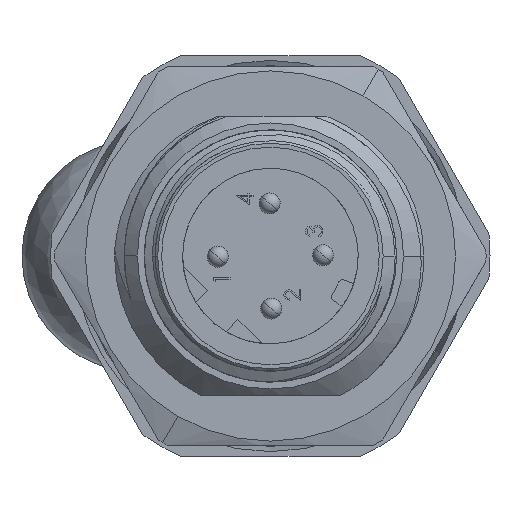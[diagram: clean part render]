
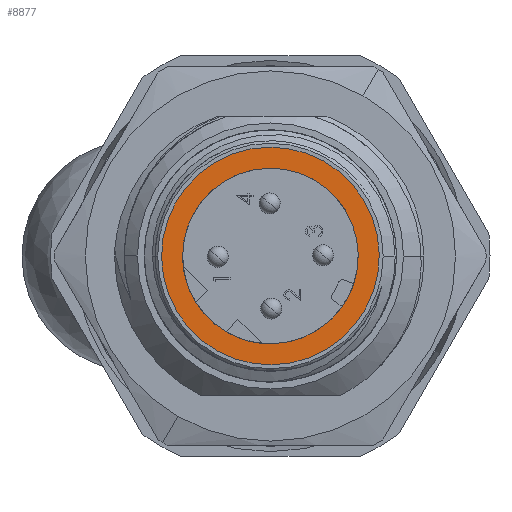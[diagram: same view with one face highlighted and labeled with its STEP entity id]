
A CAD part, left-side view. The second image highlights one B-rep face of the part: STEP entity #8877.
In plain terms, the highlighted planar face has unit normal (-1, 0, 0).
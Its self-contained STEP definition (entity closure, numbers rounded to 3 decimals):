
#456 = FACE_BOUND ( 'NONE', #14342, .T. ) ;
#1182 = DIRECTION ( 'NONE',  ( 0., 0.015, 1. ) ) ;
#2595 = ORIENTED_EDGE ( 'NONE', *, *, #27858, .T. ) ;
#3420 = ORIENTED_EDGE ( 'NONE', *, *, #15509, .F. ) ;
#4068 = VERTEX_POINT ( 'NONE', #16611 ) ;
#4629 = EDGE_CURVE ( 'NONE', #13764, #25515, #9466, .T. ) ;
#5066 = DIRECTION ( 'NONE',  ( 0., 0.015, 1. ) ) ;
#5199 = DIRECTION ( 'NONE',  ( -1., 0., 0. ) ) ;
#5714 = CARTESIAN_POINT ( 'NONE',  ( -1.016, 0.076, 5.174 ) ) ;
#5796 = AXIS2_PLACEMENT_3D ( 'NONE', #15575, #8833, #22009 ) ;
#5847 = PLANE ( 'NONE',  #17060 ) ;
#8833 = DIRECTION ( 'NONE',  ( -1., 0., 0. ) ) ;
#8877 = ADVANCED_FACE ( 'NONE', ( #456, #11179 ), #5847, .F. ) ;
#9466 = CIRCLE ( 'NONE', #18433, 5.175 ) ;
#10319 = CARTESIAN_POINT ( 'NONE',  ( -1.016, 4.175, -0.062 ) ) ;
#10459 = ORIENTED_EDGE ( 'NONE', *, *, #17154, .F. ) ;
#11179 = FACE_OUTER_BOUND ( 'NONE', #11601, .T. ) ;
#11243 = CIRCLE ( 'NONE', #24603, 5.175 ) ;
#11601 = EDGE_LOOP ( 'NONE', ( #2595, #23041 ) ) ;
#11729 = CARTESIAN_POINT ( 'NONE',  ( -1.016, 0., 0. ) ) ;
#12358 = AXIS2_PLACEMENT_3D ( 'NONE', #26346, #13275, #5066 ) ;
#13275 = DIRECTION ( 'NONE',  ( -1., 0., 0. ) ) ;
#13764 = VERTEX_POINT ( 'NONE', #23743 ) ;
#13991 = CARTESIAN_POINT ( 'NONE',  ( -1.016, 0., 0. ) ) ;
#14342 = EDGE_LOOP ( 'NONE', ( #3420, #10459 ) ) ;
#15509 = EDGE_CURVE ( 'NONE', #26648, #4068, #17546, .T. ) ;
#15575 = CARTESIAN_POINT ( 'NONE',  ( -1.016, 0., 0. ) ) ;
#16611 = CARTESIAN_POINT ( 'NONE',  ( -1.016, -0.062, -4.175 ) ) ;
#17060 = AXIS2_PLACEMENT_3D ( 'NONE', #10319, #20878, #25252 ) ;
#17154 = EDGE_CURVE ( 'NONE', #4068, #26648, #17196, .T. ) ;
#17196 = CIRCLE ( 'NONE', #5796, 4.175 ) ;
#17546 = CIRCLE ( 'NONE', #12358, 4.175 ) ;
#18258 = DIRECTION ( 'NONE',  ( -1., 0., 0. ) ) ;
#18433 = AXIS2_PLACEMENT_3D ( 'NONE', #11729, #5199, #20140 ) ;
#20140 = DIRECTION ( 'NONE',  ( 0., 0.015, 1. ) ) ;
#20878 = DIRECTION ( 'NONE',  ( 1., 0., 0. ) ) ;
#22009 = DIRECTION ( 'NONE',  ( 0., 0.015, 1. ) ) ;
#23041 = ORIENTED_EDGE ( 'NONE', *, *, #4629, .T. ) ;
#23743 = CARTESIAN_POINT ( 'NONE',  ( -1.016, -0.076, -5.174 ) ) ;
#24603 = AXIS2_PLACEMENT_3D ( 'NONE', #13991, #18258, #1182 ) ;
#25252 = DIRECTION ( 'NONE',  ( 0., -0.015, -1. ) ) ;
#25515 = VERTEX_POINT ( 'NONE', #5714 ) ;
#25864 = CARTESIAN_POINT ( 'NONE',  ( -1.016, 0.062, 4.175 ) ) ;
#26346 = CARTESIAN_POINT ( 'NONE',  ( -1.016, 0., 0. ) ) ;
#26648 = VERTEX_POINT ( 'NONE', #25864 ) ;
#27858 = EDGE_CURVE ( 'NONE', #25515, #13764, #11243, .T. ) ;
